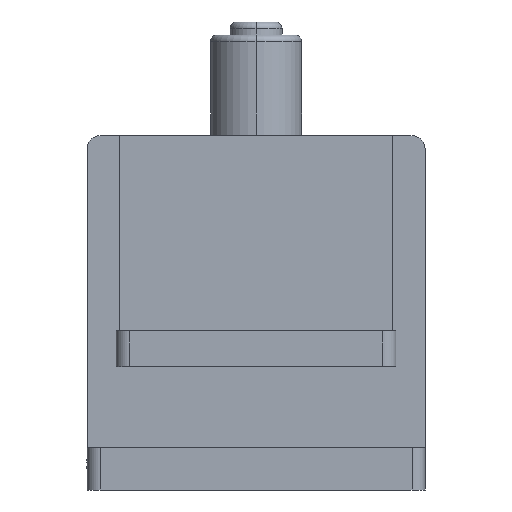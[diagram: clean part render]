
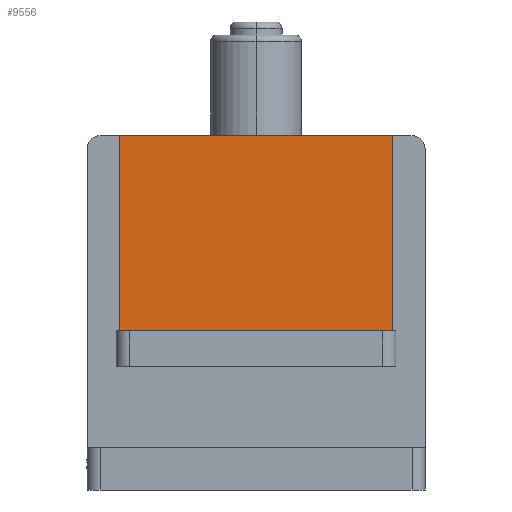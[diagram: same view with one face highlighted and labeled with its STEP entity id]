
A CAD part, left-side view. The second image highlights one B-rep face of the part: STEP entity #9556.
In plain terms, the highlighted planar face has unit normal (-1, 0, 0).
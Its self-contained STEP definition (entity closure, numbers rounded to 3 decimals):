
#151 = DIRECTION ( 'NONE',  ( 0., 0., 1. ) ) ;
#742 = CARTESIAN_POINT ( 'NONE',  ( -1.5, 21., 54.5 ) ) ;
#986 = ORIENTED_EDGE ( 'NONE', *, *, #7081, .T. ) ;
#1235 = ORIENTED_EDGE ( 'NONE', *, *, #6478, .T. ) ;
#1487 = DIRECTION ( 'NONE',  ( 1., 0., 0. ) ) ;
#1579 = VECTOR ( 'NONE', #6364, 1000. ) ;
#1813 = DIRECTION ( 'NONE',  ( 0., -1., 0. ) ) ;
#2193 = VERTEX_POINT ( 'NONE', #7395 ) ;
#2773 = VECTOR ( 'NONE', #11968, 1000. ) ;
#2789 = CARTESIAN_POINT ( 'NONE',  ( -1.5, -21., 54.5 ) ) ;
#3809 = VERTEX_POINT ( 'NONE', #2789 ) ;
#3945 = VECTOR ( 'NONE', #151, 1000. ) ;
#4192 = CARTESIAN_POINT ( 'NONE',  ( -1.5, -21., 24.5 ) ) ;
#4354 = LINE ( 'NONE', #4470, #2773 ) ;
#4470 = CARTESIAN_POINT ( 'NONE',  ( -1.5, 21., 54.5 ) ) ;
#4857 = LINE ( 'NONE', #9492, #3945 ) ;
#5059 = PLANE ( 'NONE',  #5840 ) ;
#5228 = DIRECTION ( 'NONE',  ( 0., 1., 0. ) ) ;
#5840 = AXIS2_PLACEMENT_3D ( 'NONE', #7065, #1487, #5228 ) ;
#6118 = CARTESIAN_POINT ( 'NONE',  ( -1.5, 21., 24.5 ) ) ;
#6137 = FACE_OUTER_BOUND ( 'NONE', #11185, .T. ) ;
#6294 = VECTOR ( 'NONE', #1813, 1000. ) ;
#6364 = DIRECTION ( 'NONE',  ( 0., 1., 0. ) ) ;
#6478 = EDGE_CURVE ( 'NONE', #8752, #3809, #4857, .T. ) ;
#6654 = EDGE_CURVE ( 'NONE', #3809, #2193, #6984, .T. ) ;
#6984 = LINE ( 'NONE', #742, #1579 ) ;
#7065 = CARTESIAN_POINT ( 'NONE',  ( -1.5, 0., 0. ) ) ;
#7081 = EDGE_CURVE ( 'NONE', #9978, #8752, #10178, .T. ) ;
#7395 = CARTESIAN_POINT ( 'NONE',  ( -1.5, 21., 54.5 ) ) ;
#7431 = ORIENTED_EDGE ( 'NONE', *, *, #6654, .T. ) ;
#7582 = EDGE_CURVE ( 'NONE', #2193, #9978, #4354, .T. ) ;
#8752 = VERTEX_POINT ( 'NONE', #4192 ) ;
#9339 = CARTESIAN_POINT ( 'NONE',  ( -1.5, 21.5, 24.5 ) ) ;
#9492 = CARTESIAN_POINT ( 'NONE',  ( -1.5, -21., 54.5 ) ) ;
#9556 = ADVANCED_FACE ( 'NONE', ( #6137 ), #5059, .F. ) ;
#9978 = VERTEX_POINT ( 'NONE', #6118 ) ;
#10178 = LINE ( 'NONE', #9339, #6294 ) ;
#11185 = EDGE_LOOP ( 'NONE', ( #11464, #986, #1235, #7431 ) ) ;
#11464 = ORIENTED_EDGE ( 'NONE', *, *, #7582, .T. ) ;
#11968 = DIRECTION ( 'NONE',  ( 0., 0., -1. ) ) ;
